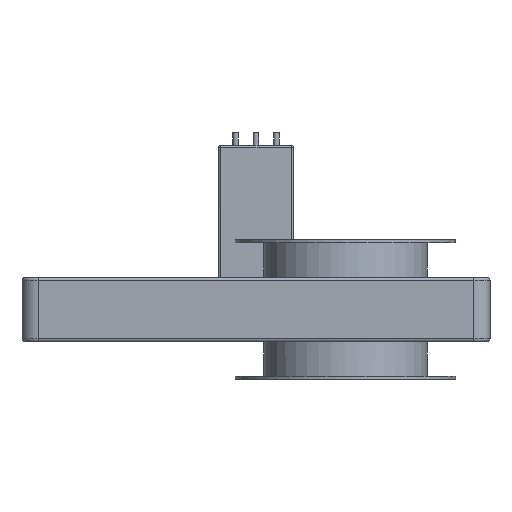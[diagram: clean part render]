
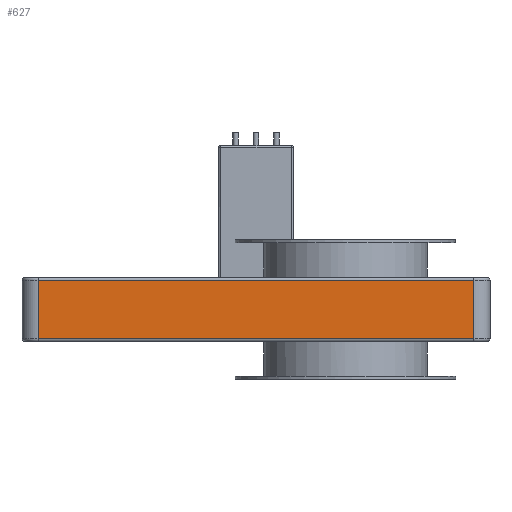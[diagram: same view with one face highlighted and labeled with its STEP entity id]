
A CAD part, front view. The second image highlights one B-rep face of the part: STEP entity #627.
In plain terms, the highlighted free-form (B-spline) face has degree [1, 1] with [2, 2] control points.
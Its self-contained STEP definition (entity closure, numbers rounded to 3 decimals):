
#569=CARTESIAN_POINT('',(-286.776,-108.913,27.25));
#570=VERTEX_POINT('',#569);
#584=CARTESIAN_POINT('',(-286.776,-108.913,-27.25));
#585=VERTEX_POINT('',#584);
#592=CARTESIAN_POINT('',(-286.776,-108.913,27.25));
#593=CARTESIAN_POINT('',(-286.776,-108.913,-27.25));
#594=B_SPLINE_CURVE_WITH_KNOTS('',1,(#592,#593),.POLYLINE_FORM.,.F.,.U.,(2,2),(0.042,0.958),.UNSPECIFIED.);
#595=EDGE_CURVE('',#570,#585,#594,.T.);
#600=CARTESIAN_POINT('',(-286.776,-108.913,29.75));
#601=CARTESIAN_POINT('',(-286.776,-108.913,-29.75));
#602=CARTESIAN_POINT('',(119.855,-108.913,29.75));
#603=CARTESIAN_POINT('',(119.855,-108.913,-29.75));
#604=B_SPLINE_SURFACE_WITH_KNOTS('',1,1,((#600,#601),(#602,#603)),.PLANE_SURF.,.F.,.F.,.U.,(2,2),(2,2),(0.,1.),(0.,1.),.UNSPECIFIED.);
#605=CARTESIAN_POINT('',(119.855,-108.913,27.25));
#606=VERTEX_POINT('',#605);
#607=CARTESIAN_POINT('',(-286.776,-108.913,27.25));
#608=CARTESIAN_POINT('',(119.855,-108.913,27.25));
#609=B_SPLINE_CURVE_WITH_KNOTS('',1,(#607,#608),.POLYLINE_FORM.,.F.,.U.,(2,2),(0.,1.),.UNSPECIFIED.);
#610=EDGE_CURVE('',#570,#606,#609,.T.);
#611=ORIENTED_EDGE('',*,*,#610,.T.);
#612=CARTESIAN_POINT('',(119.855,-108.913,-27.25));
#613=VERTEX_POINT('',#612);
#614=CARTESIAN_POINT('',(119.855,-108.913,27.25));
#615=CARTESIAN_POINT('',(119.855,-108.913,-27.25));
#616=B_SPLINE_CURVE_WITH_KNOTS('',1,(#614,#615),.POLYLINE_FORM.,.F.,.U.,(2,2),(0.042,0.958),.UNSPECIFIED.);
#617=EDGE_CURVE('',#606,#613,#616,.T.);
#618=ORIENTED_EDGE('',*,*,#617,.T.);
#619=CARTESIAN_POINT('',(-286.776,-108.913,-27.25));
#620=CARTESIAN_POINT('',(119.855,-108.913,-27.25));
#621=B_SPLINE_CURVE_WITH_KNOTS('',1,(#619,#620),.POLYLINE_FORM.,.F.,.U.,(2,2),(0.,1.),.UNSPECIFIED.);
#622=EDGE_CURVE('',#585,#613,#621,.T.);
#623=ORIENTED_EDGE('',*,*,#622,.F.);
#624=ORIENTED_EDGE('',*,*,#595,.F.);
#625=EDGE_LOOP('',(#611,#618,#623,#624));
#626=FACE_OUTER_BOUND('',#625,.F.);
#627=ADVANCED_FACE('',(#626),#604,.F.);
